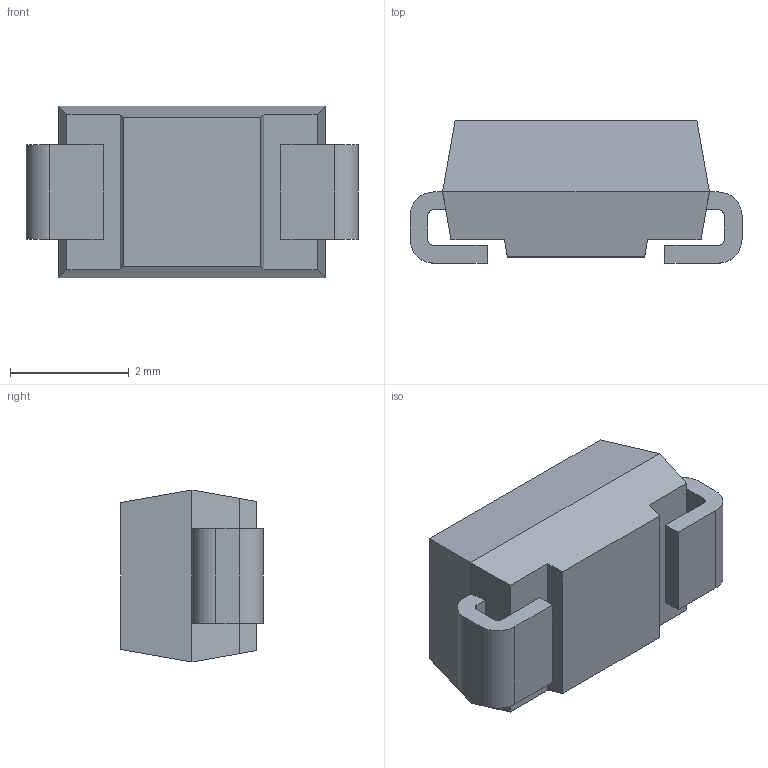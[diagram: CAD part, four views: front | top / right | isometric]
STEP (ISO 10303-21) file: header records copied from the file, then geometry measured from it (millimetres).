
FILE_DESCRIPTION (( 'STEP AP214' ), '1' );
FILE_NAME ('SMA.step', '2011-06-02T07:48:10', ( 'vpeshkov' ), ( 'licard' ), 'SwSTEP 2.0', 'SolidWorks 2009', '' );
FILE_SCHEMA (( 'AUTOMOTIVE_DESIGN' ));
Length unit declared in the file: millimetre
Products named in the file (1): SMA
Bounding box: 5.6 x 2.4 x 2.9 mm (x, y, z)
Volume: 27.2 mm3; surface area: 69.7 mm2
Topology: 1 solids, 1 shells, 45 faces, 119 edges, 76 vertices
Faces by surface type: plane 35, cylinder 10
Entity records: 1693 total; most frequent: CARTESIAN_POINT 241, ORIENTED_EDGE 238, DIRECTION 231, EDGE_CURVE 119, VECTOR 99, LINE 99, VERTEX_POINT 76, AXIS2_PLACEMENT_3D 66
